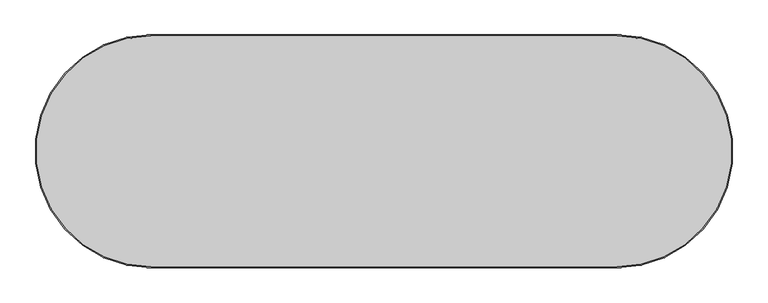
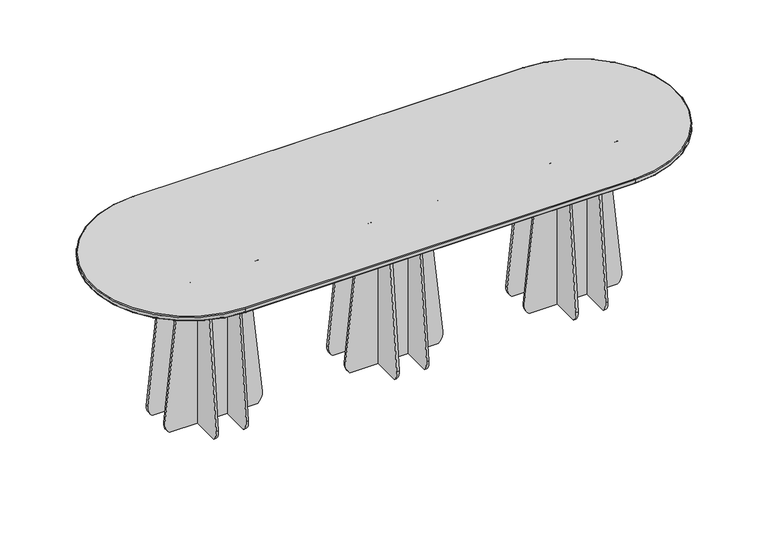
"""IFC4 building model written with IfcOpenShell, lengths in millimetres: furniture geometry, Lundbergs Möbler - Funghi Ovale - Table - Oval - 360x120 - H105 : Lundbergs Möbler - Funghi Ovale - Table - Oval - 360x120 - H105."""

from ifc_helpers import new_model, si_unit, point, frame, frame_2d, origin, place, context, project, spatial, polyline, circle_curve, ellipse_curve, trimmed, segment, composite_curve, outline, extrude, source, transform, mapped, element, save
from ifc_brep_helpers import plane_surface, cylinder_surface, revolved_surface, advanced_brep


def furniture_6f2a2246(model_context):
    return source(origin(), model_context, "Body", "SolidModel", [
        advanced_brep(
        [(1200.0000092, 600.0000046, 1025.000378), (1200.0000092, -600.0000046, 1025.000378), (1200.0000092, -595.0000046, 1020.000378), (1200.0000092, 595.0000046, 1020.000378), (1200.0000092, 600.0000046, 1045.0), (1200.0000092, -600.0000046, 1045.0), (-1200.0000092, 595.0000046, 1020.000378), (-1200.0000092, 600.0000046, 1025.000378), (-1200.0000092, -595.0000046, 1020.000378), (-1200.0000092, -600.0000046, 1025.000378), (-1200.0000092, 600.0000046, 1045.0), (-1200.0000092, -600.0000046, 1045.0), (1200.0000092, 595.0000046, 1050.0), (-1200.0000092, 595.0000046, 1050.0), (-1200.0000092, -595.0000046, 1050.0), (1200.0000092, -595.0000046, 1050.0)],
        [
            (0, 1, circle_curve(frame((1200.0000092, 0.0, 1025.000378), z_axis=(0.0, 0.0, -1.0), x_axis=(0.0, -1.0, 0.0)), 600.0000046)),
            (1, 2, circle_curve(frame((1200.0000092, -595.0000046, 1025.000378), z_axis=(1.0, 0.0, 0.0), x_axis=(0.0, 1.0, 0.0)), 5.0)),
            (2, 3, circle_curve(frame((1200.0000092, 0.0, 1020.000378), z_axis=(0.0, 0.0, 1.0), x_axis=(0.0, -1.0, 0.0)), 595.0000046)),
            (3, 0, circle_curve(frame((1200.0000092, 595.0000046, 1025.000378), z_axis=(1.0, 0.0, 0.0), x_axis=(0.0, -1.0, 0.0)), 5.0)),
            (0, 4),
            (4, 5, circle_curve(frame((1200.0000092, 0.0, 1045.0), z_axis=(0.0, 0.0, -1.0), x_axis=(0.0, -1.0, 0.0)), 600.0000046)),
            (5, 1),
            (3, 6),
            (6, 7, circle_curve(frame((-1200.0000092, 595.0000046, 1025.000378), z_axis=(1.0, 0.0, 0.0), x_axis=(0.0, -1.0, 0.0)), 5.0)),
            (7, 0),
            (6, 8, circle_curve(frame((-1200.0000092, 0.0, 1020.000378), z_axis=(0.0, 0.0, 1.0), x_axis=(0.0, 1.0, 0.0)), 595.0000046)),
            (8, 9, circle_curve(frame((-1200.0000092, -595.0000046, 1025.000378), z_axis=(-1.0, 0.0, 0.0), x_axis=(0.0, 1.0, 0.0)), 5.0)),
            (9, 7, circle_curve(frame((-1200.0000092, 0.0, 1025.000378), z_axis=(0.0, 0.0, -1.0), x_axis=(0.0, 1.0, 0.0)), 600.0000046)),
            (10, 7),
            (9, 11),
            (11, 10, circle_curve(frame((-1200.0000092, 0.0, 1045.0), z_axis=(0.0, 0.0, -1.0), x_axis=(0.0, 1.0, 0.0)), 600.0000046)),
            (12, 13),
            (13, 14, circle_curve(frame((-1200.0000092, 0.0, 1050.0), z_axis=(0.0, 0.0, 1.0), x_axis=(0.0, 1.0, 0.0)), 595.0000046)),
            (14, 15),
            (15, 12, circle_curve(frame((1200.0000092, 0.0, 1050.0), z_axis=(0.0, 0.0, 1.0), x_axis=(0.0, -1.0, 0.0)), 595.0000046)),
            (2, 8),
            (1, 9),
            (10, 4),
            (5, 11),
            (4, 12, circle_curve(frame((1200.0000092, 595.0000046, 1045.0), z_axis=(1.0, 0.0, 0.0), x_axis=(0.0, -1.0, 0.0)), 5.0)),
            (15, 5, circle_curve(frame((1200.0000092, -595.0000046, 1045.0), z_axis=(1.0, 0.0, 0.0), x_axis=(0.0, 1.0, 0.0)), 5.0)),
            (10, 13, circle_curve(frame((-1200.0000092, 595.0000046, 1045.0), z_axis=(1.0, 0.0, 0.0), x_axis=(0.0, -1.0, 0.0)), 5.0)),
            (11, 14, circle_curve(frame((-1200.0000092, -595.0000046, 1045.0), z_axis=(-1.0, 0.0, 0.0), x_axis=(0.0, 1.0, 0.0)), 5.0)),
        ],
        [
            revolved_surface(trimmed(ellipse_curve(frame((1200.0000092, -595.0000046, 1025.000378), z_axis=(-1.0, 0.0, 0.0), x_axis=(0.0, 1.0, 0.0)), 5.0, 5.0), [point((1200.0000092, -595.0000046, 1020.000378))], [point((1200.0000092, -600.0000046, 1025.000378))], True, "CARTESIAN"), (1200.0000092, 0.0, 320.0), (0.0, 0.0, 1.0)),
            cylinder_surface(frame((1200.0000092, 0.0, 320.0), z_axis=(0.0, 0.0, 1.0), x_axis=(0.0, -1.0, 0.0)), 600.0000046),
            cylinder_surface(frame((1200.0000092, 595.0000046, 1025.000378), z_axis=(1.0, 0.0, 0.0), x_axis=(0.0, -1.0, 0.0)), 5.0),
            revolved_surface(trimmed(ellipse_curve(frame((-1200.0000092, 595.0000046, 1025.000378), z_axis=(1.0, 0.0, 0.0), x_axis=(0.0, -1.0, 0.0)), 5.0, 5.0), [point((-1200.0000092, 595.0000046, 1020.000378))], [point((-1200.0000092, 600.0000046, 1025.000378))], True, "CARTESIAN"), (-1200.0000092, 0.0, 320.0), (0.0, 0.0, 1.0)),
            cylinder_surface(frame((-1200.0000092, 0.0, 320.0), z_axis=(0.0, 0.0, 1.0), x_axis=(0.0, 1.0, 0.0)), 600.0000046),
            plane_surface(frame((-1200.0000092, -595.0000046, 1050.0), z_axis=(0.0, 0.0, 1.0), x_axis=(1.0, 0.0, 0.0))),
            plane_surface(frame((-1200.0000092, -547.4635133, 1020.000378), z_axis=(0.0, 0.0, -1.0), x_axis=(1.0, 0.0, 0.0))),
            cylinder_surface(frame((-1200.0000092, -595.0000046, 1025.000378), z_axis=(-1.0, 0.0, 0.0), x_axis=(0.0, 1.0, 0.0)), 5.0),
            plane_surface(frame((1200.0000092, 600.0000046, 1025.000378), z_axis=(0.0, 1.0, 0.0), x_axis=(-1.0, 0.0, 0.0))),
            plane_surface(frame((-1200.0000092, -600.0000046, 1025.000378), z_axis=(0.0, -1.0, 0.0), x_axis=(1.0, 0.0, 0.0))),
            revolved_surface(trimmed(ellipse_curve(frame((1200.0000092, -595.0000046, 1045.0), z_axis=(-1.0, 0.0, 0.0), x_axis=(0.0, 1.0, 0.0)), 5.0, 5.0), [point((1200.0000092, -600.0000046, 1045.0))], [point((1200.0000092, -595.0000046, 1050.0))], True, "CARTESIAN"), (1200.0000092, 0.0, 320.0), (0.0, 0.0, 1.0)),
            cylinder_surface(frame((1200.0000092, 595.0000046, 1045.0), z_axis=(1.0, 0.0, 0.0), x_axis=(0.0, -1.0, 0.0)), 5.0),
            revolved_surface(trimmed(ellipse_curve(frame((-1200.0000092, 595.0000046, 1045.0), z_axis=(1.0, 0.0, 0.0), x_axis=(0.0, -1.0, 0.0)), 5.0, 5.0), [point((-1200.0000092, 600.0000046, 1045.0))], [point((-1200.0000092, 595.0000046, 1050.0))], True, "CARTESIAN"), (-1200.0000092, 0.0, 320.0), (0.0, 0.0, 1.0)),
            cylinder_surface(frame((-1200.0000092, -595.0000046, 1045.0), z_axis=(-1.0, 0.0, 0.0), x_axis=(0.0, 1.0, 0.0)), 5.0),
        ],
        [
            (0, [[1, 2, 3, 4]]),
            (1, [[-1, 5, 6, 7]]),
            (2, [[-4, 8, 9, 10]]),
            (3, [[-9, 11, 12, 13]]),
            (4, [[14, -13, 15, 16]]),
            (5, [[17, 18, 19, 20]]),
            (6, [[-3, 21, -11, -8]]),
            (7, [[-2, 22, -12, -21]]),
            (8, [[-5, -10, -14, 23]]),
            (9, [[-7, 24, -15, -22]]),
            (10, [[-6, 25, -20, 26]]),
            (11, [[-23, 27, -17, -25]]),
            (12, [[-16, 28, -18, -27]]),
            (13, [[-19, -28, -24, -26]]),
        ],
    ),
        extrude(outline(composite_curve([segment(trimmed(circle_curve(frame_2d((1018.3873965, 196.2845895)), 8.5), [point((1009.8873965, 196.2845895))], [point((1018.3873965, 204.7845895))], False, "CARTESIAN"), True, "CONTINUOUS"), segment(polyline([(1018.3873965, 204.7845895), (1020.000378, 204.7845895), (1020.000378, -204.7845895), (1018.3873965, -204.7845895)]), True, "CONTINUOUS"), segment(trimmed(circle_curve(frame_2d((1018.3873965, -196.2845895)), 8.5), [point((1018.3873965, -204.7845895))], [point((1009.8873965, -196.2845895))], False, "CARTESIAN"), True, "CONTINUOUS"), segment(polyline([(1009.8873965, -196.2845895), (1009.8873965, 196.2845895)]), True, "CONTINUOUS")], self_intersect=False)), frame((0.0, 194.900004, 0.0), z_axis=(0.0, 1.0, 0.0), x_axis=(0.0, 0.0, 1.0)), (0.0, 0.0, 1.0), 19.9999965),
        extrude(outline(composite_curve([segment(trimmed(circle_curve(frame_2d((-196.2845895, 1018.3873965)), 8.5), [point((-196.2845895, 1009.8873965))], [point((-204.7845895, 1018.3873965))], False, "CARTESIAN"), True, "CONTINUOUS"), segment(polyline([(-204.7845895, 1018.3873965), (-204.7845895, 1020.000378), (204.7845895, 1020.000378), (204.7845895, 1018.3873965)]), True, "CONTINUOUS"), segment(trimmed(circle_curve(frame_2d((196.2845895, 1018.3873965)), 8.5), [point((204.7845895, 1018.3873965))], [point((196.2845895, 1009.8873965))], False, "CARTESIAN"), True, "CONTINUOUS"), segment(polyline([(196.2845895, 1009.8873965), (-196.2845895, 1009.8873965)]), True, "CONTINUOUS")], self_intersect=False)), frame((200.425993, 0.0, 0.0), z_axis=(1.0, 0.0, 0.0), x_axis=(0.0, 1.0, 0.0)), (0.0, 0.0, 1.0), 20.0000147),
        extrude(outline(composite_curve([segment(trimmed(circle_curve(frame_2d((-196.2845895, 1018.3873965)), 8.5), [point((-196.2845895, 1009.8873965))], [point((-204.7845895, 1018.3873965))], False, "CARTESIAN"), True, "CONTINUOUS"), segment(polyline([(-204.7845895, 1018.3873965), (-204.7845895, 1020.000378), (204.7845895, 1020.000378), (204.7845895, 1018.3873965)]), True, "CONTINUOUS"), segment(trimmed(circle_curve(frame_2d((196.2845895, 1018.3873965)), 8.5), [point((204.7845895, 1018.3873965))], [point((196.2845895, 1009.8873965))], False, "CARTESIAN"), True, "CONTINUOUS"), segment(polyline([(196.2845895, 1009.8873965), (-196.2845895, 1009.8873965)]), True, "CONTINUOUS")], self_intersect=False)), frame((-211.3740166, 0.0, 0.0), z_axis=(1.0, 0.0, 0.0), x_axis=(0.0, 1.0, 0.0)), (0.0, 0.0, 1.0), 19.999942),
        extrude(outline(composite_curve([segment(trimmed(circle_curve(frame_2d((1018.3873965, 196.2845895)), 8.5), [point((1009.8873965, 196.2845895))], [point((1018.3873965, 204.7845895))], False, "CARTESIAN"), True, "CONTINUOUS"), segment(polyline([(1018.3873965, 204.7845895), (1020.000378, 204.7845895), (1020.000378, -204.7845895), (1018.3873965, -204.7845895)]), True, "CONTINUOUS"), segment(trimmed(circle_curve(frame_2d((1018.3873965, -196.2845895)), 8.5), [point((1018.3873965, -204.7845895))], [point((1009.8873965, -196.2845895))], False, "CARTESIAN"), True, "CONTINUOUS"), segment(polyline([(1009.8873965, -196.2845895), (1009.8873965, 196.2845895)]), True, "CONTINUOUS")], self_intersect=False)), frame((0.0, -216.9000056, 0.0), z_axis=(0.0, 1.0, 0.0), x_axis=(0.0, 0.0, 1.0)), (0.0, 0.0, 1.0), 19.9999965),
        extrude(outline(composite_curve([segment(trimmed(circle_curve(frame_2d((-224.3740969, 59.2172826)), 75.5612131), [point((-271.3082035, 0.0))], [point((-299.5202714, 67.1260989))], False, "CARTESIAN"), True, "CONTINUOUS"), segment(polyline([(-299.5202714, 67.1260989), (-199.234293, 1020.000378), (199.234293, 1020.000378), (299.5202714, 67.1260989)]), True, "CONTINUOUS"), segment(trimmed(circle_curve(frame_2d((224.3740969, 59.2172826)), 75.5612131), [point((299.5202714, 67.1260989))], [point((271.3082035, 0.0))], False, "CARTESIAN"), True, "CONTINUOUS"), segment(polyline([(271.3082035, 0.0), (-271.3082035, 0.0)]), True, "CONTINUOUS")], self_intersect=False)), frame((89.4259853, 0.0, 0.0), z_axis=(1.0, 0.0, 0.0), x_axis=(0.0, 1.0, 0.0)), (0.0, 0.0, 1.0), 13.4999997),
        extrude(outline(composite_curve([segment(trimmed(circle_curve(frame_2d((59.2172834, 228.8001268)), 75.5611848), [point((0.0, 275.7341869))], [point((67.1260989, 303.946273))], False, "CARTESIAN"), True, "CONTINUOUS"), segment(polyline([(67.1260989, 303.946273), (1020.000378, 203.6602669), (1020.000378, -194.8082251), (67.1260989, -295.0943424)]), True, "CONTINUOUS"), segment(trimmed(circle_curve(frame_2d((59.2172764, -219.9482129)), 75.561169), [point((67.1260989, -295.0943424))], [point((0.0, -266.8822563))], False, "CARTESIAN"), True, "CONTINUOUS"), segment(polyline([(0.0, -266.8822563), (0.0, 275.7341869)]), True, "CONTINUOUS")], self_intersect=False)), frame((0.0, 83.9999963, 0.0), z_axis=(0.0, 1.0, 0.0), x_axis=(0.0, 0.0, 1.0)), (0.0, 0.0, 1.0), 13.4999997),
        extrude(outline(composite_curve([segment(trimmed(circle_curve(frame_2d((59.2172834, 228.8001268)), 75.5611848), [point((0.0, 275.7341869))], [point((67.1260989, 303.946273))], False, "CARTESIAN"), True, "CONTINUOUS"), segment(polyline([(67.1260989, 303.946273), (1020.000378, 203.6602669), (1020.000378, -194.8082251), (67.1260989, -295.0943424)]), True, "CONTINUOUS"), segment(trimmed(circle_curve(frame_2d((59.2172764, -219.9482129)), 75.561169), [point((67.1260989, -295.0943424))], [point((0.0, -266.8822563))], False, "CARTESIAN"), True, "CONTINUOUS"), segment(polyline([(0.0, -266.8822563), (0.0, 275.7341869)]), True, "CONTINUOUS")], self_intersect=False)), frame((0.0, -99.500004, 0.0), z_axis=(0.0, 1.0, 0.0), x_axis=(0.0, 0.0, 1.0)), (0.0, 0.0, 1.0), 13.4999997),
        extrude(outline(composite_curve([segment(trimmed(circle_curve(frame_2d((-224.3740969, 59.2172826)), 75.5612131), [point((-271.3082035, 0.0))], [point((-299.5202714, 67.1260989))], False, "CARTESIAN"), True, "CONTINUOUS"), segment(polyline([(-299.5202714, 67.1260989), (-199.234293, 1020.000378), (199.234293, 1020.000378), (299.5202714, 67.1260989)]), True, "CONTINUOUS"), segment(trimmed(circle_curve(frame_2d((224.3740969, 59.2172826)), 75.5612131), [point((299.5202714, 67.1260989))], [point((271.3082035, 0.0))], False, "CARTESIAN"), True, "CONTINUOUS"), segment(polyline([(271.3082035, 0.0), (-271.3082035, 0.0)]), True, "CONTINUOUS")], self_intersect=False)), frame((-94.0740059, 0.0, 0.0), z_axis=(1.0, 0.0, 0.0), x_axis=(0.0, 1.0, 0.0)), (0.0, 0.0, 1.0), 13.4999997),
        extrude(outline(composite_curve([segment(polyline([(1009.8873965, 913.7414057), (1009.8873965, 1306.3105848)]), True, "CONTINUOUS"), segment(trimmed(circle_curve(frame_2d((1018.3873965, 1306.3105848)), 8.5), [point((1009.8873965, 1306.3105848))], [point((1018.3873965, 1314.8105848))], False, "CARTESIAN"), True, "CONTINUOUS"), segment(polyline([(1018.3873965, 1314.8105848), (1020.000378, 1314.8105848), (1020.000378, 905.2414057), (1018.3873965, 905.2414057)]), True, "CONTINUOUS"), segment(trimmed(circle_curve(frame_2d((1018.3873965, 913.7414057)), 8.5), [point((1018.3873965, 905.2414057))], [point((1009.8873965, 913.7414057))], False, "CARTESIAN"), True, "CONTINUOUS")], self_intersect=False)), frame((0.0, 194.900004, 0.0), z_axis=(0.0, 1.0, 0.0), x_axis=(0.0, 0.0, 1.0)), (0.0, 0.0, 1.0), 19.9999965),
        extrude(outline(composite_curve([segment(trimmed(circle_curve(frame_2d((-196.2845895, 1018.3873965)), 8.5), [point((-196.2845895, 1009.8873965))], [point((-204.7845895, 1018.3873965))], False, "CARTESIAN"), True, "CONTINUOUS"), segment(polyline([(-204.7845895, 1018.3873965), (-204.7845895, 1020.000378), (204.7845895, 1020.000378), (204.7845895, 1018.3873965)]), True, "CONTINUOUS"), segment(trimmed(circle_curve(frame_2d((196.2845895, 1018.3873965)), 8.5), [point((204.7845895, 1018.3873965))], [point((196.2845895, 1009.8873965))], False, "CARTESIAN"), True, "CONTINUOUS"), segment(polyline([(196.2845895, 1009.8873965), (-196.2845895, 1009.8873965)]), True, "CONTINUOUS")], self_intersect=False)), frame((889.5999876, 0.0, 0.0), z_axis=(1.0, 0.0, 0.0), x_axis=(0.0, 1.0, 0.0)), (0.0, 0.0, 1.0), 20.0000147),
        extrude(outline(composite_curve([segment(trimmed(circle_curve(frame_2d((-196.2845895, 1018.3873965)), 8.5), [point((-196.2845895, 1009.8873965))], [point((-204.7845895, 1018.3873965))], False, "CARTESIAN"), True, "CONTINUOUS"), segment(polyline([(-204.7845895, 1018.3873965), (-204.7845895, 1020.000378), (204.7845895, 1020.000378), (204.7845895, 1018.3873965)]), True, "CONTINUOUS"), segment(trimmed(circle_curve(frame_2d((196.2845895, 1018.3873965)), 8.5), [point((204.7845895, 1018.3873965))], [point((196.2845895, 1009.8873965))], False, "CARTESIAN"), True, "CONTINUOUS"), segment(polyline([(196.2845895, 1009.8873965), (-196.2845895, 1009.8873965)]), True, "CONTINUOUS")], self_intersect=False)), frame((1301.4000698, 0.0, 0.0), z_axis=(1.0, 0.0, 0.0), x_axis=(0.0, 1.0, 0.0)), (0.0, 0.0, 1.0), 19.999942),
        extrude(outline(composite_curve([segment(polyline([(1009.8873965, 913.7414057), (1009.8873965, 1306.3105848)]), True, "CONTINUOUS"), segment(trimmed(circle_curve(frame_2d((1018.3873965, 1306.3105848)), 8.5), [point((1009.8873965, 1306.3105848))], [point((1018.3873965, 1314.8105848))], False, "CARTESIAN"), True, "CONTINUOUS"), segment(polyline([(1018.3873965, 1314.8105848), (1020.000378, 1314.8105848), (1020.000378, 905.2414057), (1018.3873965, 905.2414057)]), True, "CONTINUOUS"), segment(trimmed(circle_curve(frame_2d((1018.3873965, 913.7414057)), 8.5), [point((1018.3873965, 905.2414057))], [point((1009.8873965, 913.7414057))], False, "CARTESIAN"), True, "CONTINUOUS")], self_intersect=False)), frame((0.0, -216.9000056, 0.0), z_axis=(0.0, 1.0, 0.0), x_axis=(0.0, 0.0, 1.0)), (0.0, 0.0, 1.0), 19.9999965),
        extrude(outline(composite_curve([segment(trimmed(circle_curve(frame_2d((1018.3873965, -913.7414057)), 8.5), [point((1009.8873965, -913.7414057))], [point((1018.3873965, -905.2414057))], False, "CARTESIAN"), True, "CONTINUOUS"), segment(polyline([(1018.3873965, -905.2414057), (1020.000378, -905.2414057), (1020.000378, -1314.8105848), (1018.3873965, -1314.8105848)]), True, "CONTINUOUS"), segment(trimmed(circle_curve(frame_2d((1018.3873965, -1306.3105848)), 8.5), [point((1018.3873965, -1314.8105848))], [point((1009.8873965, -1306.3105848))], False, "CARTESIAN"), True, "CONTINUOUS"), segment(polyline([(1009.8873965, -1306.3105848), (1009.8873965, -913.7414057)]), True, "CONTINUOUS")], self_intersect=False)), frame((0.0, 194.900004, 0.0), z_axis=(0.0, 1.0, 0.0), x_axis=(0.0, 0.0, 1.0)), (0.0, 0.0, 1.0), 19.9999965),
        extrude(outline(composite_curve([segment(trimmed(circle_curve(frame_2d((-196.2845895, 1018.3873965)), 8.5), [point((-196.2845895, 1009.8873965))], [point((-204.7845895, 1018.3873965))], False, "CARTESIAN"), True, "CONTINUOUS"), segment(polyline([(-204.7845895, 1018.3873965), (-204.7845895, 1020.000378), (204.7845895, 1020.000378), (204.7845895, 1018.3873965)]), True, "CONTINUOUS"), segment(trimmed(circle_curve(frame_2d((196.2845895, 1018.3873965)), 8.5), [point((204.7845895, 1018.3873965))], [point((196.2845895, 1009.8873965))], False, "CARTESIAN"), True, "CONTINUOUS"), segment(polyline([(196.2845895, 1009.8873965), (-196.2845895, 1009.8873965)]), True, "CONTINUOUS")], self_intersect=False)), frame((-909.6000023, 0.0, 0.0), z_axis=(1.0, 0.0, 0.0), x_axis=(0.0, 1.0, 0.0)), (0.0, 0.0, 1.0), 20.0000147),
        extrude(outline(composite_curve([segment(trimmed(circle_curve(frame_2d((-196.2845895, 1018.3873965)), 8.5), [point((-196.2845895, 1009.8873965))], [point((-204.7845895, 1018.3873965))], False, "CARTESIAN"), True, "CONTINUOUS"), segment(polyline([(-204.7845895, 1018.3873965), (-204.7845895, 1020.000378), (204.7845895, 1020.000378), (204.7845895, 1018.3873965)]), True, "CONTINUOUS"), segment(trimmed(circle_curve(frame_2d((196.2845895, 1018.3873965)), 8.5), [point((204.7845895, 1018.3873965))], [point((196.2845895, 1009.8873965))], False, "CARTESIAN"), True, "CONTINUOUS"), segment(polyline([(196.2845895, 1009.8873965), (-196.2845895, 1009.8873965)]), True, "CONTINUOUS")], self_intersect=False)), frame((-1321.4000118, 0.0, 0.0), z_axis=(1.0, 0.0, 0.0), x_axis=(0.0, 1.0, 0.0)), (0.0, 0.0, 1.0), 19.999942),
        extrude(outline(composite_curve([segment(trimmed(circle_curve(frame_2d((1018.3873965, -913.7414057)), 8.5), [point((1009.8873965, -913.7414057))], [point((1018.3873965, -905.2414057))], False, "CARTESIAN"), True, "CONTINUOUS"), segment(polyline([(1018.3873965, -905.2414057), (1020.000378, -905.2414057), (1020.000378, -1314.8105848), (1018.3873965, -1314.8105848)]), True, "CONTINUOUS"), segment(trimmed(circle_curve(frame_2d((1018.3873965, -1306.3105848)), 8.5), [point((1018.3873965, -1314.8105848))], [point((1009.8873965, -1306.3105848))], False, "CARTESIAN"), True, "CONTINUOUS"), segment(polyline([(1009.8873965, -1306.3105848), (1009.8873965, -913.7414057)]), True, "CONTINUOUS")], self_intersect=False)), frame((0.0, -216.9000056, 0.0), z_axis=(0.0, 1.0, 0.0), x_axis=(0.0, 0.0, 1.0)), (0.0, 0.0, 1.0), 19.9999965),
        extrude(outline(composite_curve([segment(trimmed(circle_curve(frame_2d((-224.3740969, 59.2172826)), 75.5612131), [point((-271.3082035, 0.0))], [point((-299.5202714, 67.1260989))], False, "CARTESIAN"), True, "CONTINUOUS"), segment(polyline([(-299.5202714, 67.1260989), (-199.234293, 1020.000378), (199.234293, 1020.000378), (299.5202714, 67.1260989)]), True, "CONTINUOUS"), segment(trimmed(circle_curve(frame_2d((224.3740969, 59.2172826)), 75.5612131), [point((299.5202714, 67.1260989))], [point((271.3082035, 0.0))], False, "CARTESIAN"), True, "CONTINUOUS"), segment(polyline([(271.3082035, 0.0), (-271.3082035, 0.0)]), True, "CONTINUOUS")], self_intersect=False)), frame((1007.1000103, 0.0, 0.0), z_axis=(1.0, 0.0, 0.0), x_axis=(0.0, 1.0, 0.0)), (0.0, 0.0, 1.0), 13.4999997),
        extrude(outline(composite_curve([segment(polyline([(0.0, 834.2918083), (0.0, 1376.9082516)]), True, "CONTINUOUS"), segment(trimmed(circle_curve(frame_2d((59.2172764, 1329.9742082)), 75.561169), [point((0.0, 1376.9082516))], [point((67.1260989, 1405.1203377))], False, "CARTESIAN"), True, "CONTINUOUS"), segment(polyline([(67.1260989, 1405.1203377), (1020.000378, 1304.8342203), (1020.000378, 906.3657284), (67.1260989, 806.0797222)]), True, "CONTINUOUS"), segment(trimmed(circle_curve(frame_2d((59.2172834, 881.2258684)), 75.5611848), [point((67.1260989, 806.0797222))], [point((0.0, 834.2918083))], False, "CARTESIAN"), True, "CONTINUOUS")], self_intersect=False)), frame((0.0, 83.9999963, 0.0), z_axis=(0.0, 1.0, 0.0), x_axis=(0.0, 0.0, 1.0)), (0.0, 0.0, 1.0), 13.4999997),
        extrude(outline(composite_curve([segment(polyline([(0.0, 834.2918083), (0.0, 1376.9082516)]), True, "CONTINUOUS"), segment(trimmed(circle_curve(frame_2d((59.2172764, 1329.9742082)), 75.561169), [point((0.0, 1376.9082516))], [point((67.1260989, 1405.1203377))], False, "CARTESIAN"), True, "CONTINUOUS"), segment(polyline([(67.1260989, 1405.1203377), (1020.000378, 1304.8342203), (1020.000378, 906.3657284), (67.1260989, 806.0797222)]), True, "CONTINUOUS"), segment(trimmed(circle_curve(frame_2d((59.2172834, 881.2258684)), 75.5611848), [point((67.1260989, 806.0797222))], [point((0.0, 834.2918083))], False, "CARTESIAN"), True, "CONTINUOUS")], self_intersect=False)), frame((0.0, -99.500004, 0.0), z_axis=(0.0, 1.0, 0.0), x_axis=(0.0, 0.0, 1.0)), (0.0, 0.0, 1.0), 13.4999997),
        extrude(outline(composite_curve([segment(trimmed(circle_curve(frame_2d((-224.3740969, 59.2172826)), 75.5612131), [point((-271.3082035, 0.0))], [point((-299.5202714, 67.1260989))], False, "CARTESIAN"), True, "CONTINUOUS"), segment(polyline([(-299.5202714, 67.1260989), (-199.234293, 1020.000378), (199.234293, 1020.000378), (299.5202714, 67.1260989)]), True, "CONTINUOUS"), segment(trimmed(circle_curve(frame_2d((224.3740969, 59.2172826)), 75.5612131), [point((299.5202714, 67.1260989))], [point((271.3082035, 0.0))], False, "CARTESIAN"), True, "CONTINUOUS"), segment(polyline([(271.3082035, 0.0), (-271.3082035, 0.0)]), True, "CONTINUOUS")], self_intersect=False)), frame((1190.6000015, 0.0, 0.0), z_axis=(1.0, 0.0, 0.0), x_axis=(0.0, 1.0, 0.0)), (0.0, 0.0, 1.0), 13.4999997),
        extrude(outline(composite_curve([segment(trimmed(circle_curve(frame_2d((-224.3740969, 59.2172826)), 75.5612131), [point((-271.3082035, 0.0))], [point((-299.5202714, 67.1260989))], False, "CARTESIAN"), True, "CONTINUOUS"), segment(polyline([(-299.5202714, 67.1260989), (-199.234293, 1020.000378), (199.234293, 1020.000378), (299.5202714, 67.1260989)]), True, "CONTINUOUS"), segment(trimmed(circle_curve(frame_2d((224.3740969, 59.2172826)), 75.5612131), [point((299.5202714, 67.1260989))], [point((271.3082035, 0.0))], False, "CARTESIAN"), True, "CONTINUOUS"), segment(polyline([(271.3082035, 0.0), (-271.3082035, 0.0)]), True, "CONTINUOUS")], self_intersect=False)), frame((-1020.60001, 0.0, 0.0), z_axis=(1.0, 0.0, 0.0), x_axis=(0.0, 1.0, 0.0)), (0.0, 0.0, 1.0), 13.4999997),
        extrude(outline(composite_curve([segment(trimmed(circle_curve(frame_2d((59.2172834, -881.2258684)), 75.5611848), [point((0.0, -834.2918083))], [point((67.1260989, -806.0797222))], False, "CARTESIAN"), True, "CONTINUOUS"), segment(polyline([(67.1260989, -806.0797222), (1020.000378, -906.3657284), (1020.000378, -1304.8342203), (67.1260989, -1405.1203377)]), True, "CONTINUOUS"), segment(trimmed(circle_curve(frame_2d((59.2172764, -1329.9742082)), 75.561169), [point((67.1260989, -1405.1203377))], [point((0.0, -1376.9082516))], False, "CARTESIAN"), True, "CONTINUOUS"), segment(polyline([(0.0, -1376.9082516), (0.0, -834.2918083)]), True, "CONTINUOUS")], self_intersect=False)), frame((0.0, 83.9999963, 0.0), z_axis=(0.0, 1.0, 0.0), x_axis=(0.0, 0.0, 1.0)), (0.0, 0.0, 1.0), 13.4999997),
        extrude(outline(composite_curve([segment(trimmed(circle_curve(frame_2d((59.2172834, -881.2258684)), 75.5611848), [point((0.0, -834.2918083))], [point((67.1260989, -806.0797222))], False, "CARTESIAN"), True, "CONTINUOUS"), segment(polyline([(67.1260989, -806.0797222), (1020.000378, -906.3657284), (1020.000378, -1304.8342203), (67.1260989, -1405.1203377)]), True, "CONTINUOUS"), segment(trimmed(circle_curve(frame_2d((59.2172764, -1329.9742082)), 75.561169), [point((67.1260989, -1405.1203377))], [point((0.0, -1376.9082516))], False, "CARTESIAN"), True, "CONTINUOUS"), segment(polyline([(0.0, -1376.9082516), (0.0, -834.2918083)]), True, "CONTINUOUS")], self_intersect=False)), frame((0.0, -99.500004, 0.0), z_axis=(0.0, 1.0, 0.0), x_axis=(0.0, 0.0, 1.0)), (0.0, 0.0, 1.0), 13.4999997),
        extrude(outline(composite_curve([segment(trimmed(circle_curve(frame_2d((-224.3740969, 59.2172826)), 75.5612131), [point((-271.3082035, 0.0))], [point((-299.5202714, 67.1260989))], False, "CARTESIAN"), True, "CONTINUOUS"), segment(polyline([(-299.5202714, 67.1260989), (-199.234293, 1020.000378), (199.234293, 1020.000378), (299.5202714, 67.1260989)]), True, "CONTINUOUS"), segment(trimmed(circle_curve(frame_2d((224.3740969, 59.2172826)), 75.5612131), [point((299.5202714, 67.1260989))], [point((271.3082035, 0.0))], False, "CARTESIAN"), True, "CONTINUOUS"), segment(polyline([(271.3082035, 0.0), (-271.3082035, 0.0)]), True, "CONTINUOUS")], self_intersect=False)), frame((-1204.1000012, 0.0, 0.0), z_axis=(1.0, 0.0, 0.0), x_axis=(0.0, 1.0, 0.0)), (0.0, 0.0, 1.0), 13.4999997),
    ])


if __name__ == "__main__":
    model = new_model("IFC4")
    model_context = context("Model", 3, world=origin())
    ifc_project = project(units=[si_unit("LENGTHUNIT", "METRE", prefix="MILLI")], contexts=[model_context])
    site = spatial("IfcSite", under=ifc_project)
    building = spatial("IfcBuilding", under=site)
    placement = place(None, origin())
    furniture_shape = furniture_6f2a2246(model_context)
    element("IfcFurniture", 1, ObjectType="Lundbergs Möbler - Funghi Ovale - Table - Oval - 360x120 - H105 : Lundbergs Möbler - Funghi Ovale - Table - Oval - 360x120 - H105", at=placement, inside=building, context=model_context, shape_type="MappedRepresentation", body=[
        mapped(furniture_shape, transform((0.0, 0.0, 0.0), x_axis=(1.0, 0.0, 0.0), y_axis=(0.0, 1.0, 0.0), z_axis=(0.0, 0.0, 1.0))),
    ])
    save(model, "model.ifc")
